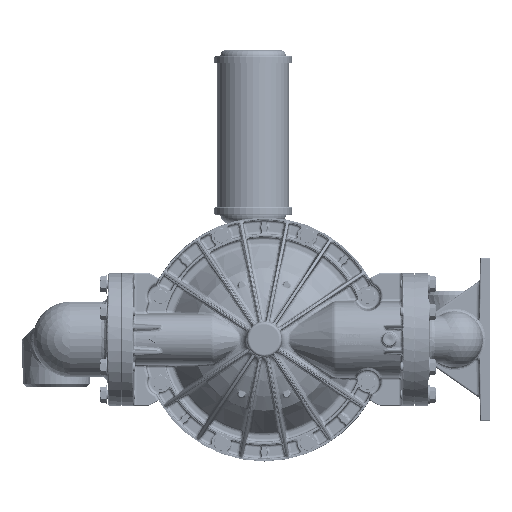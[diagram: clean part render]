
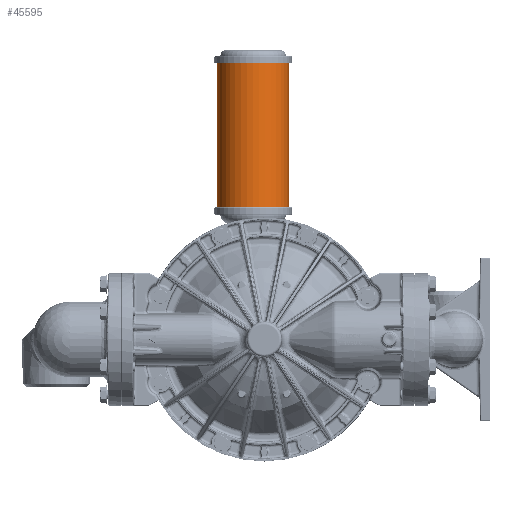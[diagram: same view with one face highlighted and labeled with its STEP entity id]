
A CAD part, left-side view. The second image highlights one B-rep face of the part: STEP entity #45595.
In plain terms, the highlighted cylindrical face has radius 61.722 mm (diameter 123.444 mm), a partial arc.
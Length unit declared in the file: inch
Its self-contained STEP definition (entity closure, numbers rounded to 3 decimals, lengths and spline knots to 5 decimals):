
#15388 = DIRECTION ( 'NONE',  ( 0., 0., -1. ) ) ;
#45595 = ADVANCED_FACE ( 'NONE', ( #529146 ), #753531, .T. ) ;
#59718 = AXIS2_PLACEMENT_3D ( 'NONE', #698379, #15388, #903211 ) ;
#75993 = CIRCLE ( 'NONE', #633254, 2.43 ) ;
#106398 = EDGE_CURVE ( 'NONE', #516267, #939781, #75993, .T. ) ;
#137848 = CARTESIAN_POINT ( 'NONE',  ( 0., -1.68, 18.745 ) ) ;
#191314 = CIRCLE ( 'NONE', #270352, 2.43 ) ;
#228720 = CARTESIAN_POINT ( 'NONE',  ( 0., 3.18, 18.745 ) ) ;
#240536 = ORIENTED_EDGE ( 'NONE', *, *, #679751, .T. ) ;
#253670 = DIRECTION ( 'NONE',  ( 0., 1., 0. ) ) ;
#255192 = VERTEX_POINT ( 'NONE', #137848 ) ;
#255443 = DIRECTION ( 'NONE',  ( 0., 0., 1. ) ) ;
#259038 = CARTESIAN_POINT ( 'NONE',  ( 0., -1.68, 8.965 ) ) ;
#270352 = AXIS2_PLACEMENT_3D ( 'NONE', #281882, #810416, #253670 ) ;
#279671 = LINE ( 'NONE', #443958, #899897 ) ;
#281882 = CARTESIAN_POINT ( 'NONE',  ( 0., 0.75, 18.745 ) ) ;
#308481 = CARTESIAN_POINT ( 'NONE',  ( 0., 0.75, 8.965 ) ) ;
#351856 = VERTEX_POINT ( 'NONE', #228720 ) ;
#443958 = CARTESIAN_POINT ( 'NONE',  ( 0., -1.68, 8.965 ) ) ;
#466134 = EDGE_CURVE ( 'NONE', #351856, #255192, #191314, .T. ) ;
#474885 = LINE ( 'NONE', #639253, #853102 ) ;
#479814 = ORIENTED_EDGE ( 'NONE', *, *, #466134, .F. ) ;
#514191 = ORIENTED_EDGE ( 'NONE', *, *, #788954, .F. ) ;
#514521 = ORIENTED_EDGE ( 'NONE', *, *, #106398, .T. ) ;
#516267 = VERTEX_POINT ( 'NONE', #904235 ) ;
#523709 = DIRECTION ( 'NONE',  ( 0., 0., 1. ) ) ;
#529146 = FACE_OUTER_BOUND ( 'NONE', #880883, .T. ) ;
#633254 = AXIS2_PLACEMENT_3D ( 'NONE', #308481, #747503, #837031 ) ;
#639253 = CARTESIAN_POINT ( 'NONE',  ( 0., 3.18, 8.965 ) ) ;
#679751 = EDGE_CURVE ( 'NONE', #939781, #255192, #279671, .T. ) ;
#698379 = CARTESIAN_POINT ( 'NONE',  ( 0., 0.75, 20.2325 ) ) ;
#747503 = DIRECTION ( 'NONE',  ( 0., 0., 1. ) ) ;
#753531 = CYLINDRICAL_SURFACE ( 'NONE', #59718, 2.43 ) ;
#788954 = EDGE_CURVE ( 'NONE', #516267, #351856, #474885, .T. ) ;
#810416 = DIRECTION ( 'NONE',  ( 0., 0., 1. ) ) ;
#837031 = DIRECTION ( 'NONE',  ( 0., 1., 0. ) ) ;
#853102 = VECTOR ( 'NONE', #255443, 39.37008 ) ;
#880883 = EDGE_LOOP ( 'NONE', ( #514521, #240536, #479814, #514191 ) ) ;
#899897 = VECTOR ( 'NONE', #523709, 39.37008 ) ;
#903211 = DIRECTION ( 'NONE',  ( 0., -1., 0. ) ) ;
#904235 = CARTESIAN_POINT ( 'NONE',  ( 0., 3.18, 8.965 ) ) ;
#939781 = VERTEX_POINT ( 'NONE', #259038 ) ;
